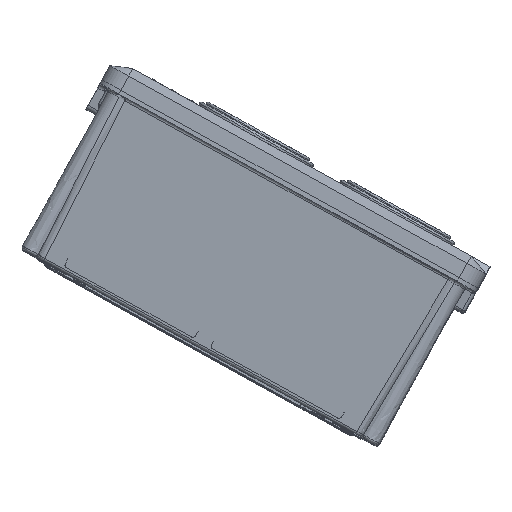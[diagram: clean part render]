
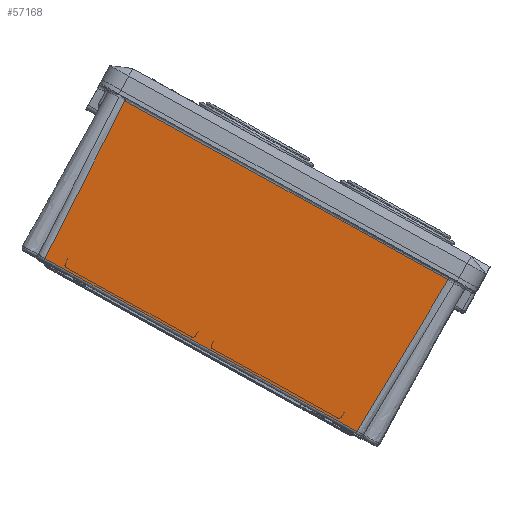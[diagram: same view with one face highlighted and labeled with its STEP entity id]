
A CAD part, top view. The second image highlights one B-rep face of the part: STEP entity #57168.
In plain terms, the highlighted free-form (B-spline) face has degree [3, 1] with [4, 2] control points.
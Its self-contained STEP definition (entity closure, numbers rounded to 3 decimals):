
#28590=CARTESIAN_POINT('',(-332.961,-172.211,564.198));
#28591=VERTEX_POINT('',#28590);
#30182=CARTESIAN_POINT('',(-1.04,-172.211,564.198));
#30183=VERTEX_POINT('',#30182);
#30194=CARTESIAN_POINT('',(-332.961,-172.211,564.198));
#30195=CARTESIAN_POINT('',(-222.321,-172.211,564.198));
#30196=CARTESIAN_POINT('',(-111.68,-172.211,564.198));
#30197=CARTESIAN_POINT('',(-1.04,-172.211,564.198));
#30198=B_SPLINE_CURVE_WITH_KNOTS('',3,(#30194,#30195,#30196,#30197),.UNSPECIFIED.,.F.,.F.,(4,4),(0.,0.332),.UNSPECIFIED.);
#30199=EDGE_CURVE('',#28591,#30183,#30198,.T.);
#47284=CARTESIAN_POINT('',(4.897,-7.844,575.799));
#47285=VERTEX_POINT('',#47284);
#47286=CARTESIAN_POINT('',(4.899,-7.789,575.803));
#47287=VERTEX_POINT('',#47286);
#47288=CARTESIAN_POINT('',(4.896,-7.844,575.799));
#47289=CARTESIAN_POINT('',(4.897,-7.826,575.8));
#47290=CARTESIAN_POINT('',(4.898,-7.807,575.802));
#47291=CARTESIAN_POINT('',(4.898,-7.789,575.803));
#47292=B_SPLINE_CURVE_WITH_KNOTS('',3,(#47288,#47289,#47290,#47291),.UNSPECIFIED.,.F.,.F.,(4,4),(0.,1.),.UNSPECIFIED.);
#47293=EDGE_CURVE('',#47285,#47287,#47292,.T.);
#47420=CARTESIAN_POINT('',(-338.9,-7.789,575.803));
#47421=VERTEX_POINT('',#47420);
#47471=CARTESIAN_POINT('',(4.899,-7.789,575.803));
#47472=CARTESIAN_POINT('',(-109.701,-7.789,575.803));
#47473=CARTESIAN_POINT('',(-224.3,-7.789,575.803));
#47474=CARTESIAN_POINT('',(-338.9,-7.789,575.803));
#47475=B_SPLINE_CURVE_WITH_KNOTS('',3,(#47471,#47472,#47473,#47474),.UNSPECIFIED.,.F.,.F.,(4,4),(0.169,0.513),.UNSPECIFIED.);
#47476=EDGE_CURVE('',#47287,#47421,#47475,.T.);
#57134=CARTESIAN_POINT('',(-332.961,-172.211,564.198));
#57135=CARTESIAN_POINT('',(-334.941,-117.404,568.067));
#57136=CARTESIAN_POINT('',(-336.92,-62.596,571.935));
#57137=CARTESIAN_POINT('',(-338.9,-7.789,575.803));
#57138=B_SPLINE_CURVE_WITH_KNOTS('',3,(#57134,#57135,#57136,#57137),.UNSPECIFIED.,.F.,.F.,(4,4),(0.016,0.984),.UNSPECIFIED.);
#57139=EDGE_CURVE('',#28591,#47421,#57138,.T.);
#57146=CARTESIAN_POINT('',(-1.04,-172.211,564.198));
#57147=CARTESIAN_POINT('',(4.899,-7.789,575.803));
#57148=CARTESIAN_POINT('',(-111.68,-172.211,564.198));
#57149=CARTESIAN_POINT('',(-109.701,-7.789,575.803));
#57150=CARTESIAN_POINT('',(-222.321,-172.211,564.198));
#57151=CARTESIAN_POINT('',(-224.3,-7.789,575.803));
#57152=CARTESIAN_POINT('',(-332.961,-172.211,564.198));
#57153=CARTESIAN_POINT('',(-338.9,-7.789,575.803));
#57154=B_SPLINE_SURFACE_WITH_KNOTS('',3,1,((#57146,#57147),(#57148,#57149),(#57150,#57151),(#57152,#57153)),.UNSPECIFIED.,.F.,.F.,.U.,(4,4),(2,2),(0.,1.),(0.016,0.984),.UNSPECIFIED.);
#57155=ORIENTED_EDGE('',*,*,#57139,.F.);
#57156=ORIENTED_EDGE('',*,*,#30199,.T.);
#57157=CARTESIAN_POINT('',(-1.04,-172.211,564.198));
#57158=CARTESIAN_POINT('',(0.939,-117.422,568.065));
#57159=CARTESIAN_POINT('',(2.918,-62.633,571.932));
#57160=CARTESIAN_POINT('',(4.897,-7.844,575.799));
#57161=B_SPLINE_CURVE_WITH_KNOTS('',3,(#57157,#57158,#57159,#57160),.UNSPECIFIED.,.F.,.F.,(4,4),(0.017,0.984),.UNSPECIFIED.);
#57162=EDGE_CURVE('',#30183,#47285,#57161,.T.);
#57163=ORIENTED_EDGE('',*,*,#57162,.T.);
#57164=ORIENTED_EDGE('',*,*,#47293,.T.);
#57165=ORIENTED_EDGE('',*,*,#47476,.T.);
#57166=EDGE_LOOP('',(#57155,#57156,#57163,#57164,#57165));
#57167=FACE_BOUND('',#57166,.T.);
#57168=ADVANCED_FACE('',(#57167),#57154,.F.);
